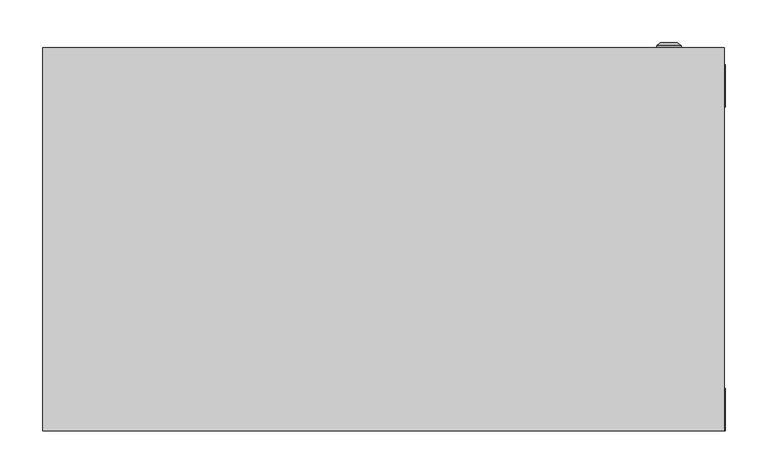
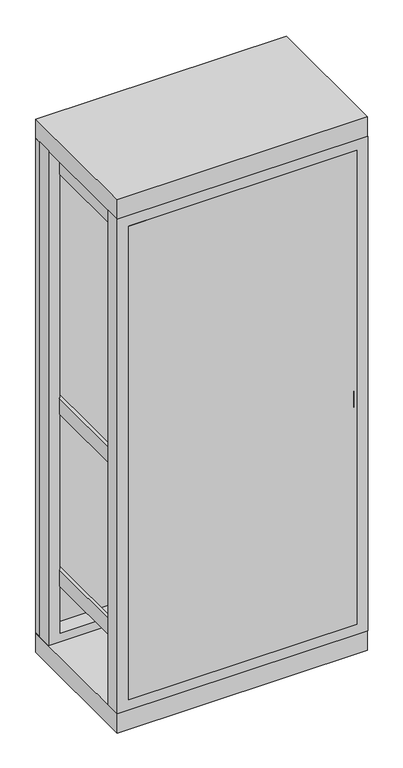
"""IFC4 building model written with IfcOpenShell, lengths in millimetres: proxy geometry, ВРУ-1 : ВРУ-1_1800х800х450."""

from ifc_helpers import new_model, si_unit, frame, origin, origin_with_axes, place, context, project, spatial, polyline, circle_curve, outline, extrude, source, transform, mapped, element, save
from ifc_brep_helpers import plane_surface, cylinder_surface, revolved_surface, advanced_brep


def electrical_equipment_5be1c734(model_context):
    return source(origin(), model_context, "Body", "SolidModel", [
        extrude(outline(polyline([(365.8707865, 0.0), (-363.3426966, 0.0), (-363.3426966, 10.0), (365.8707865, 10.0), (365.8707865, 0.0)])), frame((0.0, 0.0, 99.1378449), z_axis=(0.0, 0.0, 1.0), x_axis=(1.0, 0.0, 0.0)), (0.0, 0.0, 1.0), 1599.6160511),
        extrude(outline(polyline([(-355.8707865, 125.9831461), (-315.8707865, 125.9831461), (-315.8707865, 93.1179775), (-318.8707865, 93.1179775), (-318.8707865, 122.9831461), (-352.8707865, 122.9831461), (-352.8707865, 93.1179775), (-355.8707865, 93.1179775), (-355.8707865, 125.9831461)])), frame((0.0, 0.0, 189.6067416), z_axis=(0.0, 0.0, 1.0), x_axis=(1.0, 0.0, 0.0)), (0.0, 0.0, 1.0), 1545.3932584),
        extrude(outline(polyline([(315.8707865, 125.9831461), (355.8707865, 125.9831461), (355.8707865, 93.1179775), (352.8707865, 93.1179775), (352.8707865, 122.9831461), (318.8707865, 122.9831461), (318.8707865, 93.1179775), (315.8707865, 93.1179775), (315.8707865, 125.9831461)])), frame((0.0, 0.0, 189.6067416), z_axis=(0.0, 0.0, 1.0), x_axis=(1.0, 0.0, 0.0)), (0.0, 0.0, 1.0), 1545.3932584),
        extrude(outline(polyline([(-355.8707865, 10.0), (-365.8707865, 10.0), (-365.8707865, 430.0), (-355.8707865, 430.0), (-355.8707865, 10.0)])), frame((0.0, 0.0, 1645.5966059), z_axis=(0.0, 0.0, 1.0), x_axis=(1.0, 0.0, 0.0)), (0.0, 0.0, 1.0), 53.0898876),
        extrude(outline(polyline([(365.8707865, 10.0), (355.8707865, 10.0), (355.8707865, 430.0), (365.8707865, 430.0), (365.8707865, 10.0)])), frame((0.0, 0.0, 1645.5966059), z_axis=(0.0, 0.0, 1.0), x_axis=(1.0, 0.0, 0.0)), (0.0, 0.0, 1.0), 53.0898876),
        extrude(outline(polyline([(-355.8707865, 10.0), (-365.8707865, 10.0), (-365.8707865, 430.0), (-355.8707865, 430.0), (-355.8707865, 10.0)])), frame((0.0, 0.0, 255.5966059), z_axis=(0.0, 0.0, 1.0), x_axis=(1.0, 0.0, 0.0)), (0.0, 0.0, 1.0), 53.0898876),
        extrude(outline(polyline([(365.8707865, 10.0), (355.8707865, 10.0), (355.8707865, 430.0), (365.8707865, 430.0), (365.8707865, 10.0)])), frame((0.0, 0.0, 255.5966059), z_axis=(0.0, 0.0, 1.0), x_axis=(1.0, 0.0, 0.0)), (0.0, 0.0, 1.0), 53.0898876),
        extrude(outline(polyline([(-355.8707865, 10.0), (-365.8707865, 10.0), (-365.8707865, 430.0), (-355.8707865, 430.0), (-355.8707865, 10.0)])), frame((0.0, 0.0, 835.5966059), z_axis=(0.0, 0.0, 1.0), x_axis=(1.0, 0.0, 0.0)), (0.0, 0.0, 1.0), 53.0898876),
        extrude(outline(polyline([(365.8707865, 0.0), (355.8707865, 0.0), (355.8707865, 430.0), (365.8707865, 430.0), (365.8707865, 0.0)])), frame((0.0, 0.0, 835.5966059), z_axis=(0.0, 0.0, 1.0), x_axis=(1.0, 0.0, 0.0)), (0.0, 0.0, 1.0), 53.0898876),
        extrude(outline(polyline([(1734.1471543, -400.0), (65.0187804, -400.0), (65.0187804, 401.2640449), (1734.1471543, 401.2640449), (1734.1471543, -400.0)]), holes=[polyline([(99.1378449, 365.8707865), (99.1378449, -363.3426966), (1698.7538959, -363.3426966), (1698.7538959, 365.8707865), (99.1378449, 365.8707865)])]), frame((0.0, 0.0, 0.0), z_axis=(0.0, 1.0, 0.0), x_axis=(0.0, 0.0, 1.0)), (0.0, 0.0, 1.0), 50.0),
        extrude(outline(polyline([(1735.0, -400.0), (65.0187804, -400.0), (65.0187804, 401.2640449), (1735.0, 401.2640449), (1735.0, -400.0)]), holes=[polyline([(93.3701084, 365.8707865), (93.3701084, -363.3426966), (1692.9861595, -363.3426966), (1692.9861595, 365.8707865), (93.3701084, 365.8707865)])]), frame((0.0, 380.0, 0.0), z_axis=(0.0, 1.0, 0.0), x_axis=(0.0, 0.0, 1.0)), (0.0, 0.0, 1.0), 50.0),
        extrude(outline(polyline([(400.0067809, 450.0), (400.0067809, 0.0), (-400.0, 0.0), (-400.0, 450.0), (400.0067809, 450.0)])), frame((0.0, 0.0, 1735.0), z_axis=(0.0, 0.0, 1.0), x_axis=(1.0, 0.0, 0.0)), (0.0, 0.0, 1.0), 65.0),
        advanced_brep(
        [(320.669873, 450.0, 415.0), (349.330127, 450.0, 415.0), (335.0, 450.0, 415.0), (320.669873, 452.366592, 415.0), (349.330127, 452.366592, 415.0), (325.0, 456.0, 415.0), (345.0, 456.0, 415.0), (333.1080471, 456.0, 415.0), (336.8919529, 456.0, 415.0), (333.1080471, 454.9822294, 415.0), (336.8919529, 454.9822294, 415.0), (335.0, 454.9822294, 415.0)],
        [
            (0, 1, circle_curve(frame((335.0, 450.0, 415.0), z_axis=(0.0, -1.0, 0.0), x_axis=(1.0, 0.0, 0.0)), 14.330127)),
            (1, 2),
            (2, 0),
            (1, 0, circle_curve(frame((335.0, 450.0, 415.0), z_axis=(0.0, -1.0, 0.0), x_axis=(1.0, 0.0, 0.0)), 14.330127)),
            (3, 4, circle_curve(frame((335.0, 452.366592, 415.0), z_axis=(0.0, -1.0, 0.0), x_axis=(1.0, 0.0, 0.0)), 14.330127)),
            (4, 1),
            (0, 3),
            (4, 3, circle_curve(frame((335.0, 452.366592, 415.0), z_axis=(0.0, -1.0, 0.0), x_axis=(1.0, 0.0, 0.0)), 14.330127)),
            (5, 6, circle_curve(frame((335.0, 456.0, 415.0), z_axis=(0.0, -1.0, 0.0), x_axis=(1.0, 0.0, 0.0)), 10.0)),
            (6, 4),
            (3, 5),
            (6, 5, circle_curve(frame((335.0, 456.0, 415.0), z_axis=(0.0, -1.0, 0.0), x_axis=(1.0, 0.0, 0.0)), 10.0)),
            (7, 8, circle_curve(frame((335.0, 456.0, 415.0), z_axis=(0.0, -1.0, 0.0), x_axis=(1.0, 0.0, 0.0)), 1.8919529)),
            (8, 6),
            (5, 7),
            (8, 7, circle_curve(frame((335.0, 456.0, 415.0), z_axis=(0.0, -1.0, 0.0), x_axis=(1.0, 0.0, 0.0)), 1.8919529)),
            (9, 10, circle_curve(frame((335.0, 454.9822294, 415.0), z_axis=(0.0, -1.0, 0.0), x_axis=(1.0, 0.0, 0.0)), 1.8919529)),
            (10, 8),
            (7, 9),
            (10, 9, circle_curve(frame((335.0, 454.9822294, 415.0), z_axis=(0.0, -1.0, 0.0), x_axis=(1.0, 0.0, 0.0)), 1.8919529)),
            (11, 10),
            (9, 11),
        ],
        [
            plane_surface(frame((335.0, 450.0, 415.0), z_axis=(0.0, -1.0, 0.0), x_axis=(1.0, 0.0, 0.0))),
            cylinder_surface(frame((335.0, 463.1348851, 415.0), z_axis=(0.0, 1.0, 0.0), x_axis=(1.0, 0.0, 0.0)), 14.330127),
            revolved_surface(polyline([(349.330127, 452.366592, 415.0), (345.0, 456.0, 415.0)]), (335.0, 463.1348851, 415.0), (0.0, 1.0, 0.0)),
            plane_surface(frame((335.0, 456.0, 415.0), z_axis=(0.0, 1.0, 0.0), x_axis=(1.0, 0.0, 0.0))),
            revolved_surface(polyline([(336.8919529, 456.0, 415.0), (336.8919529, 454.9822294, 415.0)]), (335.0, 463.1348851, 415.0), (0.0, 1.0, 0.0)),
            plane_surface(frame((335.0, 454.9822294, 415.0), z_axis=(0.0, 1.0, 0.0), x_axis=(1.0, 0.0, 0.0))),
        ],
        [
            (0, [[1, 2, 3]]),
            (0, [[4, -3, -2]]),
            (1, [[5, 6, -1, 7]]),
            (1, [[8, -7, -4, -6]]),
            (2, [[9, 10, -5, 11]]),
            (2, [[12, -11, -8, -10]]),
            (3, [[13, 14, -9, 15]]),
            (3, [[16, -15, -12, -14]]),
            (4, [[17, 18, -13, 19]]),
            (4, [[20, -19, -16, -18]]),
            (5, [[21, -17, 22]]),
            (5, [[-22, -20, -21]]),
        ],
    ),
        advanced_brep(
        [(320.669873, 450.0, 1385.0), (349.330127, 450.0, 1385.0), (335.0, 450.0, 1385.0), (320.669873, 452.366592, 1385.0), (349.330127, 452.366592, 1385.0), (325.0, 456.0, 1385.0), (345.0, 456.0, 1385.0), (333.1080471, 456.0, 1385.0), (336.8919529, 456.0, 1385.0), (333.1080471, 454.9822294, 1385.0), (336.8919529, 454.9822294, 1385.0), (335.0, 454.9822294, 1385.0)],
        [
            (0, 1, circle_curve(frame((335.0, 450.0, 1385.0), z_axis=(0.0, -1.0, 0.0), x_axis=(1.0, 0.0, 0.0)), 14.330127)),
            (1, 2),
            (2, 0),
            (1, 0, circle_curve(frame((335.0, 450.0, 1385.0), z_axis=(0.0, -1.0, 0.0), x_axis=(1.0, 0.0, 0.0)), 14.330127)),
            (3, 4, circle_curve(frame((335.0, 452.366592, 1385.0), z_axis=(0.0, -1.0, 0.0), x_axis=(1.0, 0.0, 0.0)), 14.330127)),
            (4, 1),
            (0, 3),
            (4, 3, circle_curve(frame((335.0, 452.366592, 1385.0), z_axis=(0.0, -1.0, 0.0), x_axis=(1.0, 0.0, 0.0)), 14.330127)),
            (5, 6, circle_curve(frame((335.0, 456.0, 1385.0), z_axis=(0.0, -1.0, 0.0), x_axis=(1.0, 0.0, 0.0)), 10.0)),
            (6, 4),
            (3, 5),
            (6, 5, circle_curve(frame((335.0, 456.0, 1385.0), z_axis=(0.0, -1.0, 0.0), x_axis=(1.0, 0.0, 0.0)), 10.0)),
            (7, 8, circle_curve(frame((335.0, 456.0, 1385.0), z_axis=(0.0, -1.0, 0.0), x_axis=(1.0, 0.0, 0.0)), 1.8919529)),
            (8, 6),
            (5, 7),
            (8, 7, circle_curve(frame((335.0, 456.0, 1385.0), z_axis=(0.0, -1.0, 0.0), x_axis=(1.0, 0.0, 0.0)), 1.8919529)),
            (9, 10, circle_curve(frame((335.0, 454.9822294, 1385.0), z_axis=(0.0, -1.0, 0.0), x_axis=(1.0, 0.0, 0.0)), 1.8919529)),
            (10, 8),
            (7, 9),
            (10, 9, circle_curve(frame((335.0, 454.9822294, 1385.0), z_axis=(0.0, -1.0, 0.0), x_axis=(1.0, 0.0, 0.0)), 1.8919529)),
            (11, 10),
            (9, 11),
        ],
        [
            plane_surface(frame((335.0, 450.0, 1385.0), z_axis=(0.0, -1.0, 0.0), x_axis=(1.0, 0.0, 0.0))),
            cylinder_surface(frame((335.0, 463.1348851, 1385.0), z_axis=(0.0, 1.0, 0.0), x_axis=(1.0, 0.0, 0.0)), 14.330127),
            revolved_surface(polyline([(349.330127, 452.366592, 1385.0), (345.0, 456.0, 1385.0)]), (335.0, 463.1348851, 1385.0), (0.0, 1.0, 0.0)),
            plane_surface(frame((335.0, 456.0, 1385.0), z_axis=(0.0, 1.0, 0.0), x_axis=(1.0, 0.0, 0.0))),
            revolved_surface(polyline([(336.8919529, 456.0, 1385.0), (336.8919529, 454.9822294, 1385.0)]), (335.0, 463.1348851, 1385.0), (0.0, 1.0, 0.0)),
            plane_surface(frame((335.0, 454.9822294, 1385.0), z_axis=(0.0, 1.0, 0.0), x_axis=(1.0, 0.0, 0.0))),
        ],
        [
            (0, [[1, 2, 3]]),
            (0, [[4, -3, -2]]),
            (1, [[5, 6, -1, 7]]),
            (1, [[8, -7, -4, -6]]),
            (2, [[9, 10, -5, 11]]),
            (2, [[12, -11, -8, -10]]),
            (3, [[13, 14, -9, 15]]),
            (3, [[16, -15, -12, -14]]),
            (4, [[17, 18, -13, 19]]),
            (4, [[20, -19, -16, -18]]),
            (5, [[21, -17, 22]]),
            (5, [[-22, -20, -21]]),
        ],
    ),
        extrude(outline(polyline([(400.0067809, 450.0), (400.0067809, 0.0), (-400.0, 0.0), (-400.0, 450.0), (400.0067809, 450.0)])), origin_with_axes(), (0.0, 0.0, 1.0), 65.0187804),
        extrude(outline(polyline([(400.0, 430.0), (-400.0, 430.0), (-400.0, 450.0), (400.0, 450.0), (400.0, 430.0)])), frame((0.0, 0.0, 65.0187804), z_axis=(0.0, 0.0, 1.0), x_axis=(1.0, 0.0, 0.0)), (0.0, 0.0, 1.0), 1669.9812196),
    ])


if __name__ == "__main__":
    model = new_model("IFC4")
    model_context = context("Model", 3, world=origin())
    ifc_project = project(units=[si_unit("LENGTHUNIT", "METRE", prefix="MILLI")], contexts=[model_context])
    site = spatial("IfcSite", under=ifc_project)
    building = spatial("IfcBuilding", under=site)
    placement = place(None, origin())
    electrical_equipment_shape = electrical_equipment_5be1c734(model_context)
    element("IfcBuildingElementProxy", 1, Name="ВРУ-1 : ВРУ-1_1800х800х450", ObjectType="ВРУ-1 : ВРУ-1_1800х800х450", at=placement, inside=building, context=model_context, shape_type="MappedRepresentation", body=[
        mapped(electrical_equipment_shape, transform((0.0, 0.0, 0.0), x_axis=(1.0, 0.0, 0.0), y_axis=(0.0, 1.0, 0.0), z_axis=(0.0, 0.0, 1.0))),
    ])
    save(model, "model.ifc")
